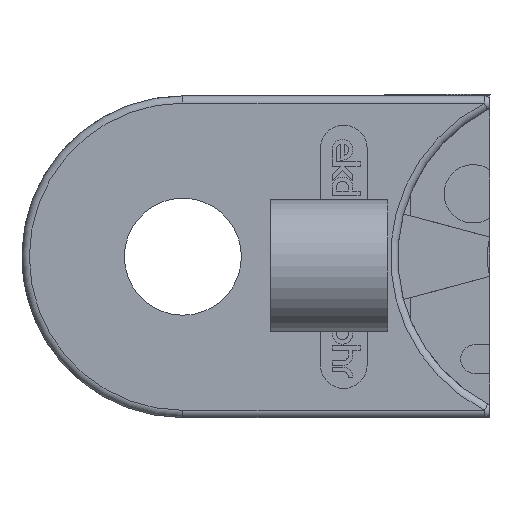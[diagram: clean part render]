
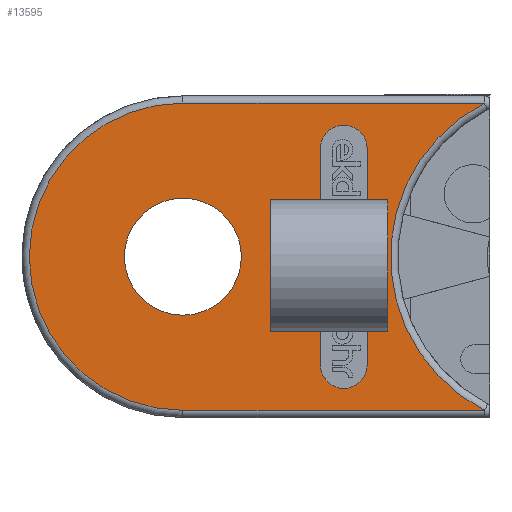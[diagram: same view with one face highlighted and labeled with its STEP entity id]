
A CAD part, left-side view. The second image highlights one B-rep face of the part: STEP entity #13595.
In plain terms, the highlighted planar face has unit normal (-1, 0, 0) as drawn and (0, 0, 1) by its records, which use the part's own axes.
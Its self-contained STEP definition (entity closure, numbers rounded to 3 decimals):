
#88=CARTESIAN_POINT('',(157.648,172.955,5.6));
#89=VERTEX_POINT('',#88);
#90=CARTESIAN_POINT('',(157.648,181.955,5.6));
#91=VERTEX_POINT('',#90);
#98=CARTESIAN_POINT('',(160.848,181.955,5.6));
#99=VERTEX_POINT('',#98);
#106=CARTESIAN_POINT('',(160.848,172.955,5.6));
#107=VERTEX_POINT('',#106);
#589=CARTESIAN_POINT('',(154.248,172.955,5.6));
#590=VERTEX_POINT('',#589);
#606=CARTESIAN_POINT('',(154.248,181.955,5.6));
#607=VERTEX_POINT('',#606);
#614=CARTESIAN_POINT('',(154.248,172.955,5.6));
#615=DIRECTION('',(0.0,1.0,0.0));
#616=VECTOR('',#615,9.0);
#617=LINE('',#614,#616);
#618=EDGE_CURVE('',#590,#607,#617,.T.);
#660=CARTESIAN_POINT('',(157.648,172.955,5.6));
#661=DIRECTION('',(-1.0,0.0,0.0));
#662=VECTOR('',#661,3.4);
#663=LINE('',#660,#662);
#664=EDGE_CURVE('',#89,#590,#663,.T.);
#681=CARTESIAN_POINT('',(162.248,172.955,5.6));
#682=VERTEX_POINT('',#681);
#683=CARTESIAN_POINT('',(162.248,172.955,5.6));
#684=DIRECTION('',(-1.0,0.0,0.0));
#685=VECTOR('',#684,1.4);
#686=LINE('',#683,#685);
#687=EDGE_CURVE('',#682,#107,#686,.T.);
#720=CARTESIAN_POINT('',(162.248,181.955,5.6));
#721=VERTEX_POINT('',#720);
#728=CARTESIAN_POINT('',(160.848,181.955,5.6));
#729=DIRECTION('',(1.0,0.0,0.0));
#730=VECTOR('',#729,1.4);
#731=LINE('',#728,#730);
#732=EDGE_CURVE('',#99,#721,#731,.T.);
#735=CARTESIAN_POINT('',(154.248,181.955,5.6));
#736=DIRECTION('',(1.0,0.0,0.0));
#737=VECTOR('',#736,3.4);
#738=LINE('',#735,#737);
#739=EDGE_CURVE('',#607,#91,#738,.T.);
#769=CARTESIAN_POINT('',(162.248,181.955,5.6));
#770=DIRECTION('',(0.0,-1.0,0.0));
#771=VECTOR('',#770,9.0);
#772=LINE('',#769,#771);
#773=EDGE_CURVE('',#721,#682,#772,.T.);
#1913=CARTESIAN_POINT('',(168.864,167.574,5.6));
#1914=VERTEX_POINT('',#1913);
#13288=CARTESIAN_POINT('',(148.248,167.574,5.6));
#13289=VERTEX_POINT('',#13288);
#13290=CARTESIAN_POINT('',(168.864,167.574,5.6));
#13291=DIRECTION('',(-1.0,0.0,0.0));
#13292=VECTOR('',#13291,20.616);
#13293=LINE('',#13290,#13292);
#13294=EDGE_CURVE('',#1914,#13289,#13293,.T.);
#13312=CARTESIAN_POINT('',(148.248,188.574,5.6));
#13313=VERTEX_POINT('',#13312);
#13329=CARTESIAN_POINT('',(148.248,178.074,5.6));
#13330=DIRECTION('',(0.0,0.0,-1.0));
#13331=DIRECTION('',(-1.0,0.0,0.0));
#13332=AXIS2_PLACEMENT_3D('',#13329,#13330,#13331);
#13333=CIRCLE('',#13332,10.5);
#13334=EDGE_CURVE('',#13289,#13313,#13333,.T.);
#13344=CARTESIAN_POINT('',(168.864,188.574,5.6));
#13345=VERTEX_POINT('',#13344);
#13355=CARTESIAN_POINT('',(148.248,188.574,5.6));
#13356=DIRECTION('',(1.0,0.0,0.0));
#13357=VECTOR('',#13356,20.616);
#13358=LINE('',#13355,#13357);
#13359=EDGE_CURVE('',#13313,#13345,#13358,.T.);
#13384=CARTESIAN_POINT('',(174.248,178.074,5.6));
#13385=DIRECTION('',(0.0,0.0,1.0));
#13386=DIRECTION('',(-1.0,0.0,0.0));
#13387=AXIS2_PLACEMENT_3D('',#13384,#13385,#13386);
#13388=CIRCLE('',#13387,11.8);
#13389=EDGE_CURVE('',#13345,#1914,#13388,.T.);
#13519=CARTESIAN_POINT('',(161.768,178.104,5.6));
#13520=DIRECTION('',(0.0,0.0,1.0));
#13521=DIRECTION('',(1.0,0.0,0.0));
#13522=AXIS2_PLACEMENT_3D('',#13519,#13520,#13521);
#13523=PLANE('',#13522);
#13524=ORIENTED_EDGE('',*,*,#13294,.F.);
#13525=ORIENTED_EDGE('',*,*,#13389,.F.);
#13526=ORIENTED_EDGE('',*,*,#13359,.F.);
#13527=ORIENTED_EDGE('',*,*,#13334,.F.);
#13528=EDGE_LOOP('',(#13524,#13525,#13526,#13527));
#13529=FACE_OUTER_BOUND('',#13528,.T.);
#13530=ORIENTED_EDGE('',*,*,#739,.T.);
#13531=CARTESIAN_POINT('',(157.648,185.474,5.6));
#13532=VERTEX_POINT('',#13531);
#13533=CARTESIAN_POINT('',(157.648,181.955,5.6));
#13534=DIRECTION('',(0.0,1.0,0.0));
#13535=VECTOR('',#13534,3.519);
#13536=LINE('',#13533,#13535);
#13537=EDGE_CURVE('',#91,#13532,#13536,.T.);
#13538=ORIENTED_EDGE('',*,*,#13537,.T.);
#13539=CARTESIAN_POINT('',(160.848,185.474,5.6));
#13540=VERTEX_POINT('',#13539);
#13541=CARTESIAN_POINT('',(159.248,185.474,5.6));
#13542=DIRECTION('',(0.0,0.0,-1.0));
#13543=DIRECTION('',(-1.0,0.0,0.0));
#13544=AXIS2_PLACEMENT_3D('',#13541,#13542,#13543);
#13545=CIRCLE('',#13544,1.6);
#13546=EDGE_CURVE('',#13532,#13540,#13545,.T.);
#13547=ORIENTED_EDGE('',*,*,#13546,.T.);
#13548=CARTESIAN_POINT('',(160.848,185.474,5.6));
#13549=DIRECTION('',(0.0,-1.0,0.0));
#13550=VECTOR('',#13549,3.519);
#13551=LINE('',#13548,#13550);
#13552=EDGE_CURVE('',#13540,#99,#13551,.T.);
#13553=ORIENTED_EDGE('',*,*,#13552,.T.);
#13554=ORIENTED_EDGE('',*,*,#732,.T.);
#13555=ORIENTED_EDGE('',*,*,#773,.T.);
#13556=ORIENTED_EDGE('',*,*,#687,.T.);
#13557=CARTESIAN_POINT('',(160.848,170.674,5.6));
#13558=VERTEX_POINT('',#13557);
#13559=CARTESIAN_POINT('',(160.848,172.955,5.6));
#13560=DIRECTION('',(0.0,-1.0,0.0));
#13561=VECTOR('',#13560,2.281);
#13562=LINE('',#13559,#13561);
#13563=EDGE_CURVE('',#107,#13558,#13562,.T.);
#13564=ORIENTED_EDGE('',*,*,#13563,.T.);
#13565=CARTESIAN_POINT('',(157.648,170.674,5.6));
#13566=VERTEX_POINT('',#13565);
#13567=CARTESIAN_POINT('',(159.248,170.674,5.6));
#13568=DIRECTION('',(0.0,0.0,-1.0));
#13569=DIRECTION('',(1.0,0.0,0.0));
#13570=AXIS2_PLACEMENT_3D('',#13567,#13568,#13569);
#13571=CIRCLE('',#13570,1.6);
#13572=EDGE_CURVE('',#13558,#13566,#13571,.T.);
#13573=ORIENTED_EDGE('',*,*,#13572,.T.);
#13574=CARTESIAN_POINT('',(157.648,170.674,5.6));
#13575=DIRECTION('',(0.0,1.0,0.0));
#13576=VECTOR('',#13575,2.281);
#13577=LINE('',#13574,#13576);
#13578=EDGE_CURVE('',#13566,#89,#13577,.T.);
#13579=ORIENTED_EDGE('',*,*,#13578,.T.);
#13580=ORIENTED_EDGE('',*,*,#664,.T.);
#13581=ORIENTED_EDGE('',*,*,#618,.T.);
#13582=EDGE_LOOP('',(#13530,#13538,#13547,#13553,#13554,#13555,#13556,#13564,#13573,#13579,#13580,#13581));
#13583=FACE_BOUND('',#13582,.T.);
#13584=CARTESIAN_POINT('',(152.248,178.074,5.6));
#13585=VERTEX_POINT('',#13584);
#13586=CARTESIAN_POINT('',(148.248,178.074,5.6));
#13587=DIRECTION('',(0.0,0.0,-1.0));
#13588=DIRECTION('',(-1.0,0.0,0.0));
#13589=AXIS2_PLACEMENT_3D('',#13586,#13587,#13588);
#13590=CIRCLE('',#13589,4.0);
#13591=EDGE_CURVE('',#13585,#13585,#13590,.T.);
#13592=ORIENTED_EDGE('',*,*,#13591,.T.);
#13593=EDGE_LOOP('',(#13592));
#13594=FACE_BOUND('',#13593,.T.);
#13595=ADVANCED_FACE('',(#13529,#13583,#13594),#13523,.T.);
